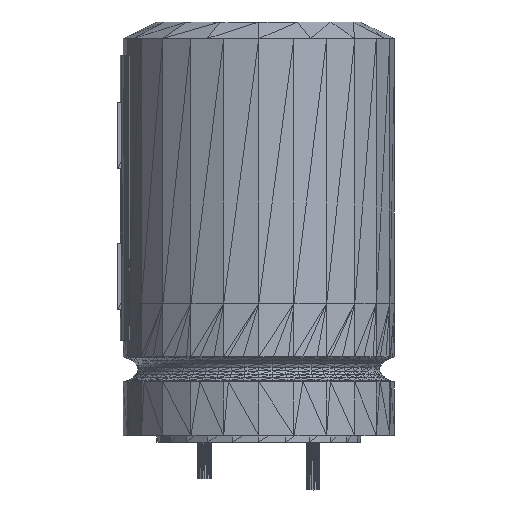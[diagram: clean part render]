
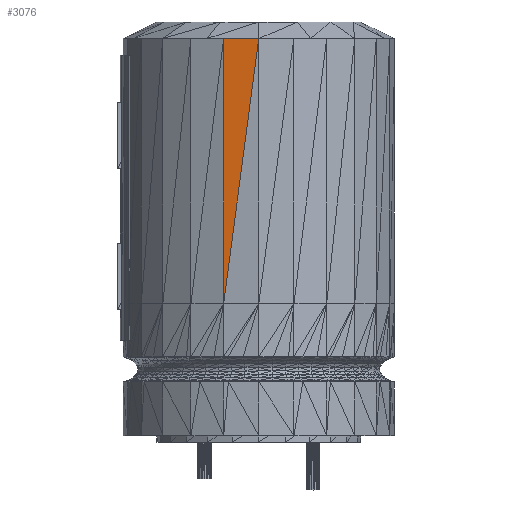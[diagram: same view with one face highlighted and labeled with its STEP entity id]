
A CAD part, front view. The second image highlights one B-rep face of the part: STEP entity #3076.
In plain terms, the highlighted planar face has unit normal (-0.131, -0.991, 0).
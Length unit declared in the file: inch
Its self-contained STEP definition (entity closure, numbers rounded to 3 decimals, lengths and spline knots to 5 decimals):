
#2276=CARTESIAN_POINT('',(0.,-0.25015,0.74338));
#2277=VERTEX_POINT('',#2276);
#2299=CARTESIAN_POINT('',(-0.0647,-0.24163,0.74338));
#2300=VERTEX_POINT('',#2299);
#2301=CARTESIAN_POINT('',(0.,-0.25015,0.74338));
#2302=DIRECTION('',(-0.991,0.131,0.));
#2303=VECTOR('',#2302,0.06526);
#2304=LINE('',#2301,#2303);
#2305=EDGE_CURVE('',#2277,#2300,#2304,.T.);
#3043=CARTESIAN_POINT('',(-0.0647,-0.24153,0.2559));
#3044=VERTEX_POINT('',#3043);
#3045=CARTESIAN_POINT('',(-0.0647,-0.24153,0.2559));
#3046=DIRECTION('',(0.132,-0.018,0.991));
#3047=VECTOR('',#3046,0.49183);
#3048=LINE('',#3045,#3047);
#3049=EDGE_CURVE('',#3044,#2277,#3048,.T.);
#3061=CARTESIAN_POINT('',(0.,-0.25015,0.74338));
#3062=DIRECTION('',(0.131,0.991,0.));
#3063=DIRECTION('',(0.991,-0.131,0.));
#3064=AXIS2_PLACEMENT_3D('',#3061,#3062,#3063);
#3065=PLANE('',#3064);
#3066=ORIENTED_EDGE('',*,*,#2305,.T.);
#3067=CARTESIAN_POINT('',(-0.0647,-0.24153,0.2559));
#3068=DIRECTION('',(0.,0.,1.));
#3069=VECTOR('',#3068,0.48749);
#3070=LINE('',#3067,#3069);
#3071=EDGE_CURVE('',#3044,#2300,#3070,.T.);
#3072=ORIENTED_EDGE('',*,*,#3071,.F.);
#3073=ORIENTED_EDGE('',*,*,#3049,.T.);
#3074=EDGE_LOOP('',(#3066,#3072,#3073));
#3075=FACE_BOUND('',#3074,.T.);
#3076=ADVANCED_FACE('',(#3075),#3065,.F.);
